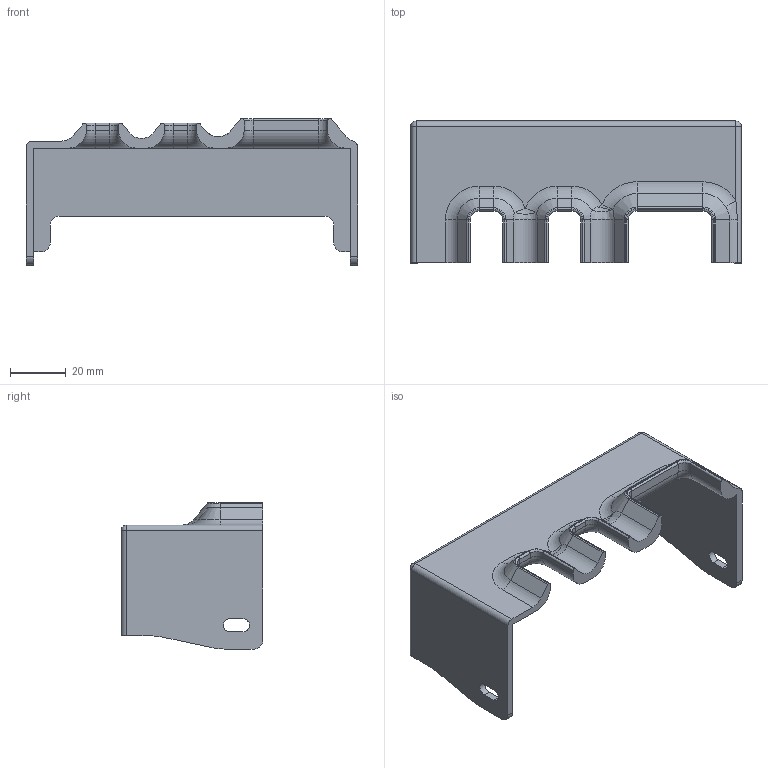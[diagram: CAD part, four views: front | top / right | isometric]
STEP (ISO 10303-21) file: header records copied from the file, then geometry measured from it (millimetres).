
FILE_DESCRIPTION (( 'STEP AP203' ), '1' );
FILE_NAME ('POWER SUPPLY COVER.STEP', '2019-11-27T16:55:28', ( '' ), ( '' ), 'SwSTEP 2.0', 'SolidWorks 2017', '' );
FILE_SCHEMA (( 'CONFIG_CONTROL_DESIGN' ));
Length unit declared in the file: inch
Products named in the file (1): POWER SUPPLY COVER
Bounding box: 118.58 x 50.8 x 52.39 mm (x, y, z)
Volume: 34051 mm3; surface area: 26395.5 mm2
Topology: 1 solids, 1 shells, 143 faces, 363 edges, 220 vertices
Faces by surface type: cylinder 59, plane 46, torus 24, cone 6, sphere 5, bspline 3
Entity records: 4470 total; most frequent: CARTESIAN_POINT 850, DIRECTION 800, ORIENTED_EDGE 722, EDGE_CURVE 361, AXIS2_PLACEMENT_3D 304, VERTEX_POINT 220, LINE 192, VECTOR 192
